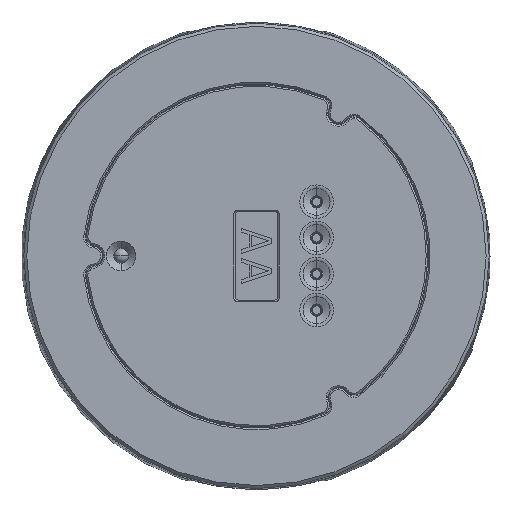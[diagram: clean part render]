
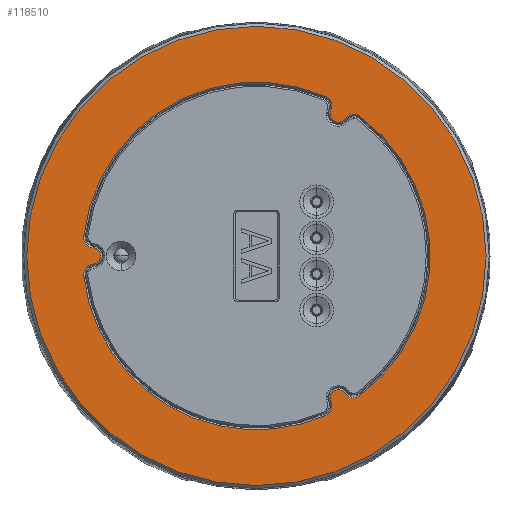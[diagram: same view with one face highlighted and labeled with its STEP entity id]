
A CAD part, top view. The second image highlights one B-rep face of the part: STEP entity #118510.
In plain terms, the highlighted planar face has unit normal (0, 0, 1).
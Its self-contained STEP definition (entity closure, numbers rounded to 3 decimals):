
#20980=CARTESIAN_POINT('',(0.,0.,28.7));
#20981=DIRECTION('',(0.,0.,1.));
#20982=DIRECTION('',(-0.5,-0.866,0.));
#20983=AXIS2_PLACEMENT_3D('',#20980,#20981,#20982);
#20985=CARTESIAN_POINT('',(0.,0.,28.7));
#20986=DIRECTION('',(0.,0.,1.));
#20987=DIRECTION('',(0.5,0.866,0.));
#20988=AXIS2_PLACEMENT_3D('',#20985,#20986,#20987);
#20990=CARTESIAN_POINT('',(-54.5,0.,28.7));
#20991=DIRECTION('',(0.,0.,1.));
#20992=DIRECTION('',(0.089,-0.996,0.));
#20993=AXIS2_PLACEMENT_3D('',#20990,#20991,#20992);
#20995=CARTESIAN_POINT('',(-53.948,-6.175,28.7));
#20996=DIRECTION('',(0.,0.,-1.));
#20997=DIRECTION('',(-0.994,-0.114,0.));
#20998=AXIS2_PLACEMENT_3D('',#20995,#20996,#20997);
#21000=CARTESIAN_POINT('',(0.,0.,28.7));
#21001=DIRECTION('',(0.,0.,-1.));
#21002=DIRECTION('',(-0.5,-0.866,0.));
#21003=AXIS2_PLACEMENT_3D('',#21000,#21001,#21002);
#21005=CARTESIAN_POINT('',(0.,0.,28.7));
#21006=DIRECTION('',(0.,0.,-1.));
#21007=DIRECTION('',(0.398,-0.917,0.));
#21008=AXIS2_PLACEMENT_3D('',#21005,#21006,#21007);
#21010=CARTESIAN_POINT('',(21.626,-49.808,28.7));
#21011=DIRECTION('',(0.,0.,-1.));
#21012=DIRECTION('',(0.907,0.421,0.));
#21013=AXIS2_PLACEMENT_3D('',#21010,#21011,#21012);
#21015=CARTESIAN_POINT('',(27.25,-47.198,28.7));
#21016=DIRECTION('',(0.,0.,1.));
#21017=DIRECTION('',(0.5,0.866,0.));
#21018=AXIS2_PLACEMENT_3D('',#21015,#21016,#21017);
#21020=CARTESIAN_POINT('',(27.25,-47.198,28.7));
#21021=DIRECTION('',(0.,0.,1.));
#21022=DIRECTION('',(0.818,0.575,0.));
#21023=AXIS2_PLACEMENT_3D('',#21020,#21021,#21022);
#21025=CARTESIAN_POINT('',(32.322,-43.632,28.7));
#21026=DIRECTION('',(0.,0.,-1.));
#21027=DIRECTION('',(-0.5,-0.866,0.));
#21028=AXIS2_PLACEMENT_3D('',#21025,#21026,#21027);
#21030=CARTESIAN_POINT('',(32.322,-43.632,28.7));
#21031=DIRECTION('',(0.,0.,-1.));
#21032=DIRECTION('',(0.595,-0.804,0.));
#21033=AXIS2_PLACEMENT_3D('',#21030,#21031,#21032);
#21035=CARTESIAN_POINT('',(0.,0.,28.7));
#21036=DIRECTION('',(0.,0.,-1.));
#21037=DIRECTION('',(0.595,0.804,0.));
#21038=AXIS2_PLACEMENT_3D('',#21035,#21036,#21037);
#21040=CARTESIAN_POINT('',(32.322,43.632,28.7));
#21041=DIRECTION('',(0.,0.,-1.));
#21042=DIRECTION('',(0.5,0.866,0.));
#21043=AXIS2_PLACEMENT_3D('',#21040,#21041,#21042);
#21045=CARTESIAN_POINT('',(32.322,43.632,28.7));
#21046=DIRECTION('',(0.,0.,-1.));
#21047=DIRECTION('',(-0.818,0.575,0.));
#21048=AXIS2_PLACEMENT_3D('',#21045,#21046,#21047);
#21050=CARTESIAN_POINT('',(27.25,47.198,28.7));
#21051=DIRECTION('',(0.,0.,1.));
#21052=DIRECTION('',(-0.5,-0.866,0.));
#21053=AXIS2_PLACEMENT_3D('',#21050,#21051,#21052);
#21055=CARTESIAN_POINT('',(27.25,47.198,28.7));
#21056=DIRECTION('',(0.,0.,1.));
#21057=DIRECTION('',(-0.907,0.421,0.));
#21058=AXIS2_PLACEMENT_3D('',#21055,#21056,#21057);
#21060=CARTESIAN_POINT('',(21.626,49.808,28.7));
#21061=DIRECTION('',(0.,0.,-1.));
#21062=DIRECTION('',(0.5,0.866,0.));
#21063=AXIS2_PLACEMENT_3D('',#21060,#21061,#21062);
#21065=CARTESIAN_POINT('',(21.626,49.808,28.7));
#21066=DIRECTION('',(0.,0.,-1.));
#21067=DIRECTION('',(0.398,0.917,0.));
#21068=AXIS2_PLACEMENT_3D('',#21065,#21066,#21067);
#21070=CARTESIAN_POINT('',(0.,0.,28.7));
#21071=DIRECTION('',(0.,0.,-1.));
#21072=DIRECTION('',(-0.994,0.114,0.));
#21073=AXIS2_PLACEMENT_3D('',#21070,#21071,#21072);
#21075=CARTESIAN_POINT('',(-53.948,6.175,28.7));
#21076=DIRECTION('',(0.,0.,-1.));
#21077=DIRECTION('',(-0.5,-0.866,0.));
#21078=AXIS2_PLACEMENT_3D('',#21075,#21076,#21077);
#21080=CARTESIAN_POINT('',(-53.948,6.175,28.7));
#21081=DIRECTION('',(0.,0.,-1.));
#21082=DIRECTION('',(-0.089,-0.996,0.));
#21083=AXIS2_PLACEMENT_3D('',#21080,#21081,#21082);
#21085=CARTESIAN_POINT('',(-54.5,0.,28.7));
#21086=DIRECTION('',(0.,0.,1.));
#21087=DIRECTION('',(0.5,0.866,0.));
#21088=AXIS2_PLACEMENT_3D('',#21085,#21086,#21087);
#66821=CARTESIAN_POINT('',(38.167,66.107,28.7));
#66822=VERTEX_POINT('',#66821);
#66825=CARTESIAN_POINT('',(-38.167,-66.107,28.7));
#66826=VERTEX_POINT('',#66825);
#66827=CARTESIAN_POINT('',(-53.136,2.362,28.7));
#66828=CARTESIAN_POINT('',(-54.257,2.717,28.7));
#66829=VERTEX_POINT('',#66827);
#66830=VERTEX_POINT('',#66828);
#66831=CARTESIAN_POINT('',(-54.257,-2.717,28.7));
#66832=VERTEX_POINT('',#66831);
#66833=CARTESIAN_POINT('',(-55.684,3.168,28.7));
#66834=CARTESIAN_POINT('',(-57.398,6.57,28.7));
#66835=VERTEX_POINT('',#66833);
#66836=VERTEX_POINT('',#66834);
#66837=CARTESIAN_POINT('',(-57.398,-6.57,28.7));
#66838=VERTEX_POINT('',#66837);
#66845=CARTESIAN_POINT('',(23.009,52.993,28.7));
#66846=VERTEX_POINT('',#66845);
#66847=CARTESIAN_POINT('',(-28.886,-50.032,28.7));
#66848=VERTEX_POINT('',#66847);
#66849=CARTESIAN_POINT('',(23.009,-52.993,28.7));
#66850=VERTEX_POINT('',#66849);
#66859=CARTESIAN_POINT('',(23.362,52.815,28.7));
#66860=CARTESIAN_POINT('',(24.776,48.346,28.7));
#66861=VERTEX_POINT('',#66859);
#66862=VERTEX_POINT('',#66860);
#66865=CARTESIAN_POINT('',(24.776,-48.346,28.7));
#66866=VERTEX_POINT('',#66865);
#66875=CARTESIAN_POINT('',(25.886,44.836,28.7));
#66876=CARTESIAN_POINT('',(29.481,45.63,28.7));
#66877=VERTEX_POINT('',#66875);
#66878=VERTEX_POINT('',#66876);
#66883=CARTESIAN_POINT('',(28.614,-44.836,28.7));
#66884=VERTEX_POINT('',#66883);
#66885=CARTESIAN_POINT('',(29.481,-45.63,28.7));
#66886=VERTEX_POINT('',#66885);
#66895=CARTESIAN_POINT('',(34.058,46.64,28.7));
#66896=CARTESIAN_POINT('',(34.389,46.423,28.7));
#66897=VERTEX_POINT('',#66895);
#66898=VERTEX_POINT('',#66896);
#66901=CARTESIAN_POINT('',(30.586,-46.64,28.7));
#66902=VERTEX_POINT('',#66901);
#66903=CARTESIAN_POINT('',(34.389,-46.423,28.7));
#66904=VERTEX_POINT('',#66903);
#118459=CARTESIAN_POINT('',(0.,0.,28.7));
#118460=DIRECTION('',(0.,0.,-1.));
#118461=DIRECTION('',(0.5,0.866,0.));
#118462=AXIS2_PLACEMENT_3D('',#118459,#118460,#118461);
#118463=PLANE('',#118462);
#118464=ORIENTED_EDGE('',*,*,#118452,.F.);
#118465=ORIENTED_EDGE('',*,*,#118438,.F.);
#118466=EDGE_LOOP('',(#118464,#118465));
#118467=FACE_OUTER_BOUND('',#118466,.F.);
#118469=ORIENTED_EDGE('',*,*,#118468,.F.);
#118471=ORIENTED_EDGE('',*,*,#118470,.F.);
#118473=ORIENTED_EDGE('',*,*,#118472,.F.);
#118475=ORIENTED_EDGE('',*,*,#118474,.F.);
#118477=ORIENTED_EDGE('',*,*,#118476,.F.);
#118479=ORIENTED_EDGE('',*,*,#118478,.F.);
#118481=ORIENTED_EDGE('',*,*,#118480,.F.);
#118483=ORIENTED_EDGE('',*,*,#118482,.F.);
#118485=ORIENTED_EDGE('',*,*,#118484,.F.);
#118487=ORIENTED_EDGE('',*,*,#118486,.F.);
#118489=ORIENTED_EDGE('',*,*,#118488,.F.);
#118491=ORIENTED_EDGE('',*,*,#118490,.F.);
#118493=ORIENTED_EDGE('',*,*,#118492,.F.);
#118495=ORIENTED_EDGE('',*,*,#118494,.F.);
#118497=ORIENTED_EDGE('',*,*,#118496,.F.);
#118499=ORIENTED_EDGE('',*,*,#118498,.F.);
#118501=ORIENTED_EDGE('',*,*,#118500,.F.);
#118503=ORIENTED_EDGE('',*,*,#118502,.F.);
#118505=ORIENTED_EDGE('',*,*,#118504,.F.);
#118507=ORIENTED_EDGE('',*,*,#118506,.F.);
#118508=EDGE_LOOP('',(#118469,#118471,#118473,#118475,#118477,#118479,#118481,
#118483,#118485,#118487,#118489,#118491,#118493,#118495,#118497,#118499,#118501,
#118503,#118505,#118507));
#118509=FACE_BOUND('',#118508,.F.);
#20984=CIRCLE('',#20983,76.334);
#20989=CIRCLE('',#20988,76.334);
#20994=CIRCLE('',#20993,2.728);
#20999=CIRCLE('',#20998,3.472);
#21004=CIRCLE('',#21003,57.772);
#21009=CIRCLE('',#21008,57.772);
#21014=CIRCLE('',#21013,3.472);
#21019=CIRCLE('',#21018,2.728);
#21024=CIRCLE('',#21023,2.728);
#21029=CIRCLE('',#21028,3.472);
#21034=CIRCLE('',#21033,3.472);
#21039=CIRCLE('',#21038,57.772);
#21044=CIRCLE('',#21043,3.472);
#21049=CIRCLE('',#21048,3.472);
#21054=CIRCLE('',#21053,2.728);
#21059=CIRCLE('',#21058,2.728);
#21064=CIRCLE('',#21063,3.472);
#21069=CIRCLE('',#21068,3.472);
#21074=CIRCLE('',#21073,57.772);
#21079=CIRCLE('',#21078,3.472);
#21084=CIRCLE('',#21083,3.472);
#21089=CIRCLE('',#21088,2.728);
#118438=EDGE_CURVE('',#66822,#66826,#20989,.T.);
#118452=EDGE_CURVE('',#66826,#66822,#20984,.T.);
#118468=EDGE_CURVE('',#66832,#66829,#20994,.T.);
#118470=EDGE_CURVE('',#66838,#66832,#20999,.T.);
#118472=EDGE_CURVE('',#66848,#66838,#21004,.T.);
#118474=EDGE_CURVE('',#66850,#66848,#21009,.T.);
#118476=EDGE_CURVE('',#66866,#66850,#21014,.T.);
#118478=EDGE_CURVE('',#66884,#66866,#21019,.T.);
#118480=EDGE_CURVE('',#66886,#66884,#21024,.T.);
#118482=EDGE_CURVE('',#66902,#66886,#21029,.T.);
#118484=EDGE_CURVE('',#66904,#66902,#21034,.T.);
#118486=EDGE_CURVE('',#66898,#66904,#21039,.T.);
#118488=EDGE_CURVE('',#66897,#66898,#21044,.T.);
#118490=EDGE_CURVE('',#66878,#66897,#21049,.T.);
#118492=EDGE_CURVE('',#66877,#66878,#21054,.T.);
#118494=EDGE_CURVE('',#66862,#66877,#21059,.T.);
#118496=EDGE_CURVE('',#66861,#66862,#21064,.T.);
#118498=EDGE_CURVE('',#66846,#66861,#21069,.T.);
#118500=EDGE_CURVE('',#66836,#66846,#21074,.T.);
#118502=EDGE_CURVE('',#66835,#66836,#21079,.T.);
#118504=EDGE_CURVE('',#66830,#66835,#21084,.T.);
#118506=EDGE_CURVE('',#66829,#66830,#21089,.T.);
#118510=ADVANCED_FACE('',(#118467,#118509),#118463,.F.);
